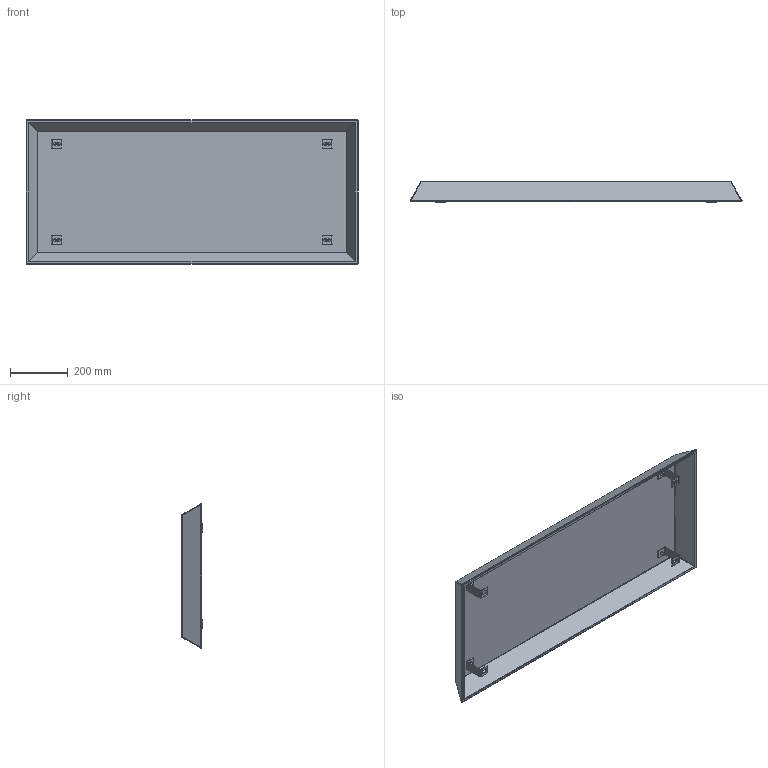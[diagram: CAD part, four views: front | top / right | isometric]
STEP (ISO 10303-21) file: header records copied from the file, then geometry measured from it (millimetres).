
FILE_DESCRIPTION (( 'STEP AP203' ), '1' );
FILE_NAME ('青蜞1000x400(258952).STEP', '2018-07-24T06:08:52', ( '' ), ( '' ), 'SwSTEP 2.0', 'SolidWorks 2018', '' );
FILE_SCHEMA (( 'CONFIG_CONTROL_DESIGN' ));
Length unit declared in the file: millimetre
Products named in the file (8): Ñêîáà; Êðûøà1000x400; Çàùèòà1000x400(258952)
Assembly tree (5 placements, depth 2):
  Ñêîáà
  Êðûøà1000x400
  Ñêîáà
  Ñêîáà
  Ñêîáà
Bounding box: 1148.61 x 73 x 498.61 mm (x, y, z)
Volume: 1480065.7 mm3; surface area: 1489092.1 mm2
Topology: 5 solids, 5 shells, 166 faces, 370 edges, 212 vertices
Faces by surface type: plane 100, cylinder 56, sphere 10
Entity records: 2868 total; most frequent: DIRECTION 407, CARTESIAN_POINT 353, ORIENTED_EDGE 334, EDGE_CURVE 167, AXIS2_PLACEMENT_3D 152, VECTOR 103, LINE 103, VERTEX_POINT 98
